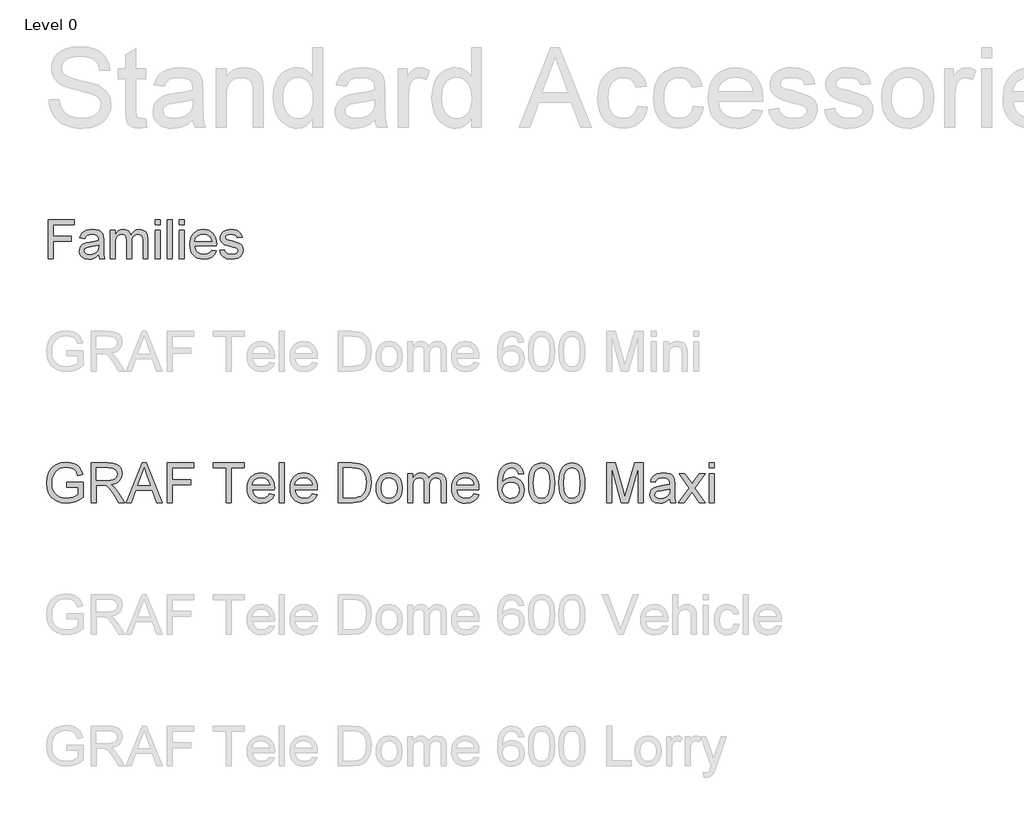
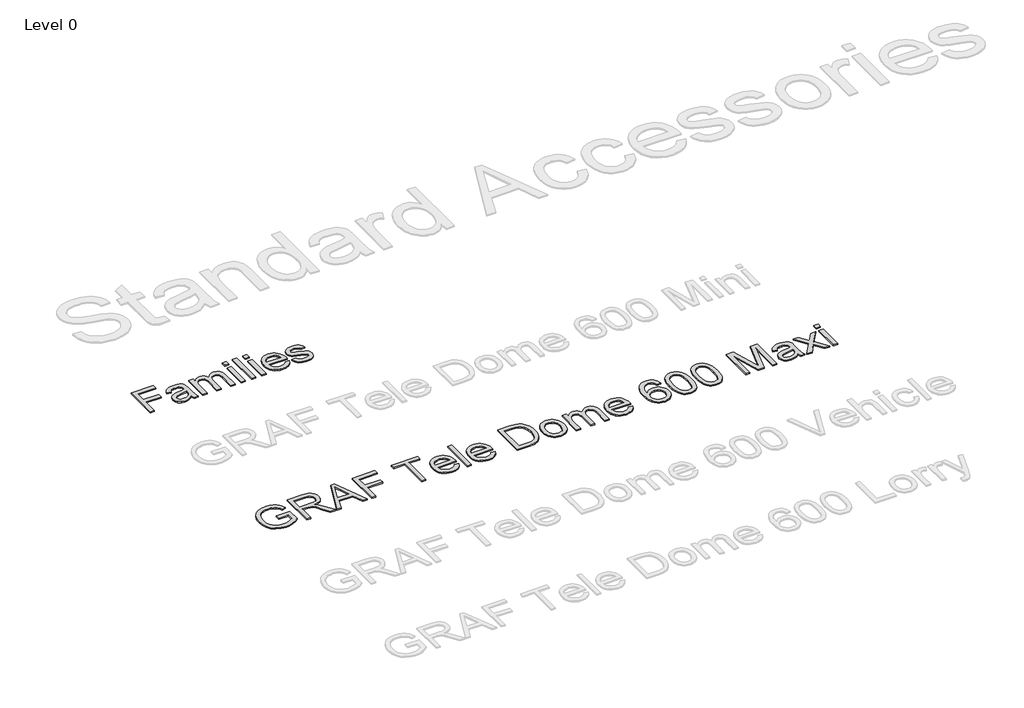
# One storey, part 8 of 19: 2 proxies.
"""IFC4 building model written with IfcOpenShell, lengths in millimetres."""

from ifc_helpers import new_model, si_unit, origin, origin_with_axes, place, context, project, spatial, polyline, outline, extrude, element, save

model = new_model("IFC4")

# Units and contexts
model_context = context("Model", 3, world=origin())
ifc_project = project(units=[si_unit("LENGTHUNIT", "METRE", prefix="MILLI")], contexts=[model_context])

# Site, building, storey
site = spatial("IfcSite", under=ifc_project)
building = spatial("IfcBuilding", under=site)
storey = spatial("IfcBuildingStorey", under=building, Name="Level 0", Elevation=0.0)

# Proxies
placement = place(None, origin())
element("IfcBuildingElementProxy", 1, Name="300mm Arial", ObjectType="300mm Arial", at=placement, inside=storey, context=model_context, shape_type="SweptSolid", body=[
    extrude(outline(polyline([(-15382.9152593, -8345.8973897), (-15382.9152593, -8050.5127743), (-15184.4537209, -8050.5127743), (-15184.4537209, -8087.4358512), (-15345.9921824, -8087.4358512), (-15345.9921824, -8175.1281589), (-15207.530644, -8175.1281589), (-15207.530644, -8212.0512358), (-15345.9921824, -8212.0512358), (-15345.9921824, -8345.8973897), (-15382.9152593, -8345.8973897)])), origin_with_axes(), (0.0, 0.0, 1.0), 10.0),
    extrude(outline(polyline([(-14999.8383363, -8318.205082), (-15017.4795622, -8333.3312839), (-15035.6436247, -8343.2291204), (-15054.7451872, -8348.6918608), (-15075.1989132, -8350.5127743), (-15106.0552834, -8346.1317647), (-15128.8167017, -8332.9887358), (-15142.8521584, -8313.0308031), (-15147.530644, -8288.205082), (-15145.763817, -8272.8985916), (-15140.4633363, -8258.9983512), (-15132.2872545, -8247.0993127), (-15121.8936247, -8237.7964281), (-15096.0402593, -8225.6810435), (-15064.093144, -8220.1281589), (-15026.3407401, -8214.2868127), (-15000.0546824, -8207.4358512), (-14999.8383363, -8199.2146974), (-15002.3804036, -8182.736332), (-15010.0066055, -8171.955082), (-15027.061894, -8163.9502743), (-15050.8239132, -8161.282005), (-15072.8191055, -8163.0578464), (-15088.1796824, -8168.3853704), (-15098.654442, -8178.2381349), (-15105.9921824, -8193.5896974), (-15142.9152593, -8188.9743127), (-15136.5060045, -8168.782005), (-15126.9417017, -8152.9166204), (-15113.3299228, -8140.783207), (-15094.7782401, -8131.7868127), (-15072.0889372, -8126.2158993), (-15046.0642978, -8124.3589281), (-15021.1033603, -8125.9995531), (-15001.3167017, -8130.9214281), (-14986.3978315, -8138.3222695), (-14976.0402593, -8147.3997935), (-14969.171269, -8158.6227502), (-14964.718144, -8172.4598897), (-14962.9152593, -8204.767582), (-14962.9152593, -8250.705082), (-14961.0402593, -8314.8517166), (-14953.6844901, -8345.8973897), (-14990.607567, -8345.8973897), (-14999.8383363, -8318.205082)]), holes=[polyline([(-14999.8383363, -8244.3589281), (-15059.405644, -8255.6810435), (-15091.1724709, -8261.6666204), (-15105.5594901, -8271.4021974), (-15110.607567, -8285.6089281), (-15107.858168, -8296.5884954), (-15099.6099709, -8305.5848897), (-15086.0432642, -8311.5884954), (-15067.3383363, -8313.5896974), (-15047.5066055, -8311.3811637), (-15029.982567, -8304.7555627), (-15015.7758363, -8294.9929425), (-15005.8960286, -8283.3733512), (-15001.515019, -8271.4021974), (-15000.0546824, -8254.8156589), (-14999.8383363, -8244.3589281)])]), origin_with_axes(), (0.0, 0.0, 1.0), 10.0),
    extrude(outline(polyline([(-14912.1460286, -8345.8973897), (-14912.1460286, -8128.9743127), (-14875.2229517, -8128.9743127), (-14875.2229517, -8164.6714281), (-14864.1171824, -8148.2741925), (-14849.8383363, -8135.4286397), (-14832.873192, -8127.126356), (-14813.7085286, -8124.3589281), (-14793.1736728, -8127.1804425), (-14776.7133363, -8135.6449858), (-14764.4176632, -8149.1936637), (-14756.3767978, -8167.267582), (-14742.9182642, -8148.4950459), (-14727.5667017, -8135.0860916), (-14710.3221103, -8127.040719), (-14691.1844901, -8124.3589281), (-14663.4290815, -8128.8210675), (-14642.9032401, -8142.2074858), (-14630.2199468, -8164.8787599), (-14625.9921824, -8197.1954666), (-14625.9921824, -8345.8973897), (-14662.9152593, -8345.8973897), (-14662.9152593, -8213.0608512), (-14666.3407401, -8182.2315243), (-14671.154442, -8173.7309233), (-14678.7445863, -8167.0512358), (-14688.5072065, -8162.7243127), (-14699.8383363, -8161.282005), (-14719.8413411, -8164.9779185), (-14736.1484324, -8176.0656589), (-14746.9927834, -8195.3024377), (-14750.607567, -8223.4454666), (-14750.607567, -8345.8973897), (-14787.530644, -8345.8973897), (-14787.530644, -8208.9502743), (-14789.6670622, -8188.0728704), (-14796.076317, -8173.1810435), (-14807.3533603, -8164.2567647), (-14824.093144, -8161.282005), (-14838.3179036, -8163.2651781), (-14851.4248747, -8169.2146974), (-14862.2421824, -8178.986332), (-14869.5979517, -8192.4358512), (-14873.8167017, -8211.095707), (-14875.2229517, -8236.4983512), (-14875.2229517, -8345.8973897), (-14912.1460286, -8345.8973897)])), origin_with_axes(), (0.0, 0.0, 1.0), 10.0),
    extrude(outline(polyline([(-14570.607567, -8087.4358512), (-14570.607567, -8050.5127743), (-14533.6844901, -8050.5127743), (-14533.6844901, -8087.4358512), (-14570.607567, -8087.4358512)])), origin_with_axes(), (0.0, 0.0, 1.0), 10.0),
    extrude(outline(polyline([(-14570.607567, -8345.8973897), (-14570.607567, -8128.9743127), (-14533.6844901, -8128.9743127), (-14533.6844901, -8345.8973897), (-14570.607567, -8345.8973897)])), origin_with_axes(), (0.0, 0.0, 1.0), 10.0),
    extrude(outline(polyline([(-14478.2998747, -8345.8973897), (-14478.2998747, -8050.5127743), (-14441.3767978, -8050.5127743), (-14441.3767978, -8345.8973897), (-14478.2998747, -8345.8973897)])), origin_with_axes(), (0.0, 0.0, 1.0), 10.0),
    extrude(outline(polyline([(-14385.9921824, -8087.4358512), (-14385.9921824, -8050.5127743), (-14349.0691055, -8050.5127743), (-14349.0691055, -8087.4358512), (-14385.9921824, -8087.4358512)])), origin_with_axes(), (0.0, 0.0, 1.0), 10.0),
    extrude(outline(polyline([(-14385.9921824, -8345.8973897), (-14385.9921824, -8128.9743127), (-14349.0691055, -8128.9743127), (-14349.0691055, -8345.8973897), (-14385.9921824, -8345.8973897)])), origin_with_axes(), (0.0, 0.0, 1.0), 10.0),
    extrude(outline(polyline([(-14141.8094901, -8281.282005), (-14105.607567, -8285.8973897), (-14118.6514372, -8313.1750339), (-14139.4657401, -8333.5656589), (-14167.5817257, -8346.2759954), (-14202.530644, -8350.5127743), (-14225.4408002, -8348.6851), (-14245.8539613, -8343.2020772), (-14263.7701271, -8334.0637058), (-14279.1892978, -8321.2699858), (-14291.5886367, -8305.176987), (-14300.4453074, -8286.1407791), (-14305.7593098, -8264.161362), (-14307.530644, -8239.2387358), (-14305.741281, -8213.4710074), (-14300.373192, -8190.7591685), (-14291.4263771, -8171.103219), (-14278.9008363, -8154.5031589), (-14263.5222305, -8141.3150579), (-14246.0162209, -8131.8949858), (-14226.3828074, -8126.2429425), (-14204.6219901, -8124.3589281), (-14183.5620442, -8126.2384353), (-14164.5168218, -8131.876957), (-14147.486323, -8141.274493), (-14132.4705478, -8154.4310435), (-14120.213186, -8170.9950459), (-14111.4579276, -8190.6149377), (-14106.2047726, -8213.290719), (-14104.4537209, -8239.0223897), (-14104.670067, -8248.9743127), (-14270.607567, -8248.9743127), (-14264.2163411, -8276.6125339), (-14249.3695863, -8296.9310435), (-14227.9423026, -8309.4250339), (-14201.8094901, -8313.5896974), (-14182.1580478, -8311.6606108), (-14165.607567, -8305.8733512), (-14152.1580478, -8295.8673416), (-14141.8094901, -8281.282005)]), holes=[polyline([(-14270.607567, -8212.0512358), (-14141.3767978, -8212.0512358), (-14146.3707882, -8192.5440243), (-14156.1604517, -8178.5896974), (-14177.686894, -8165.6089281), (-14204.7662209, -8161.282005), (-14229.655043, -8164.7345291), (-14250.2349709, -8175.0921012), (-14264.5408603, -8191.2369329), (-14270.607567, -8212.0512358)])]), origin_with_axes(), (0.0, 0.0, 1.0), 10.0),
    extrude(outline(polyline([(-14081.3767978, -8281.282005), (-14044.4537209, -8276.6666204), (-14038.6304036, -8292.4598897), (-14027.3623747, -8304.0704666), (-14010.577519, -8311.2098897), (-13988.2037209, -8313.5896974), (-13966.1003555, -8311.408207), (-13950.5594901, -8304.8637358), (-13941.3647786, -8295.3805627), (-13938.2998747, -8284.3829666), (-13941.3828074, -8274.9719089), (-13950.6316055, -8267.7964281), (-13988.6364132, -8257.267582), (-14044.2373747, -8239.2026781), (-14058.3088892, -8230.1251541), (-14068.5042017, -8218.1089281), (-14074.6971103, -8203.9202262), (-14076.7614132, -8188.3252743), (-14075.1027593, -8174.0193849), (-14070.1267978, -8160.813255), (-14062.2842497, -8149.2297214), (-14052.0258363, -8139.7916204), (-14028.5522786, -8128.8661397), (-13996.7854517, -8124.3589281), (-13972.7529997, -8126.1708272), (-13951.857567, -8131.6065243), (-13935.0546824, -8140.1341685), (-13923.2998747, -8151.2219089), (-13915.5114132, -8165.6900579), (-13910.607567, -8184.3589281), (-13947.530644, -8188.9743127), (-13952.1911007, -8177.3547214), (-13961.4128555, -8168.6017166), (-13975.2860526, -8163.1119329), (-13993.9008363, -8161.282005), (-14015.1027593, -8163.0308031), (-14029.2373747, -8168.2771974), (-14037.1880959, -8175.8493127), (-14039.8383363, -8184.5752743), (-14035.4392978, -8195.3204666), (-14021.6652593, -8203.469505), (-13989.8623747, -8211.330082), (-13935.6676632, -8228.7098897), (-13921.3527593, -8237.0211877), (-13910.499394, -8248.3973897), (-13903.6574468, -8262.8745531), (-13901.3767978, -8280.4887358), (-13904.0540815, -8298.6978704), (-13912.0859324, -8315.8252743), (-13925.1658603, -8330.5277983), (-13942.9873747, -8341.4622935), (-13964.513817, -8348.2501541), (-13988.7085286, -8350.5127743), (-14025.9380959, -8346.1497935), (-14053.107567, -8333.0608512), (-14071.2445863, -8311.3901781), (-14081.3767978, -8281.282005)])), origin_with_axes(), (0.0, 0.0, 1.0), 10.0),
])
element("IfcBuildingElementProxy", 2, Name="300mm Arial", ObjectType="300mm Arial", at=placement, inside=storey, context=model_context, shape_type="SweptSolid", body=[
    extrude(outline(polyline([(-15240.9940387, -10082.9794047), (-15240.9940387, -10045.3082884), (-15118.5629107, -10045.3082884), (-15118.5629107, -10157.9537553), (-15148.3153671, -10178.6471176), (-15179.0059225, -10193.4911561), (-15210.5610007, -10202.4306885), (-15242.9070251, -10205.4105327), (-15285.1674693, -10200.674052), (-15323.3628175, -10186.46461), (-15355.0926395, -10163.2788472), (-15377.9565055, -10131.6134045), (-15391.7796715, -10093.6295885), (-15396.3873935, -10051.4887059), (-15391.7980656, -10009.0443207), (-15378.0300819, -9969.5613856), (-15355.6536596, -9936.442809), (-15325.2390156, -9913.0914993), (-15288.1932987, -9899.2407422), (-15245.9236575, -9894.6238232), (-15214.8928112, -9897.3001647), (-15186.9889618, -9905.3291892), (-15163.4904994, -9918.1314827), (-15145.6758138, -9935.1276309), (-15132.4964413, -9957.1361712), (-15122.9039183, -9984.9756412), (-15157.6319786, -9994.7613023), (-15165.3850917, -9974.9048716), (-15174.8120678, -9959.9228773), (-15187.2832674, -9948.6289001), (-15204.169051, -9939.8365204), (-15224.3013932, -9934.1803347), (-15246.5122687, -9932.2949395), (-15272.5123287, -9934.3274875), (-15294.7415982, -9940.4251316), (-15313.1173039, -9949.8245166), (-15327.5566722, -9961.7622873), (-15346.9440533, -9990.7881767), (-15355.7732212, -10019.225455), (-15358.7162772, -10049.9436015), (-15355.175413, -10085.9684459), (-15344.5528204, -10115.6105377), (-15327.1703961, -10138.6583447), (-15303.3500369, -10154.9003348), (-15275.4737787, -10164.529646), (-15245.9236575, -10167.7394164), (-15219.831627, -10165.3205923), (-15194.3833899, -10158.0641199), (-15172.2828791, -10148.0669267), (-15156.234027, -10137.42594), (-15156.234027, -10082.9794047), (-15240.9940387, -10082.9794047)])), origin_with_axes(), (0.0, 0.0, 1.0), 10.0),
    extrude(outline(polyline([(-15057.3473467, -10200.7016432), (-15057.3473467, -9899.3327127), (-14927.4850024, -9899.3327127), (-14892.5821982, -9901.3652607), (-14867.1891434, -9907.4629048), (-14848.6294968, -9918.7200939), (-14834.2269167, -9936.2312768), (-14824.9838815, -9957.9455116), (-14821.9028698, -9981.811856), (-14827.0072325, -10011.4999331), (-14842.3203206, -10036.1112385), (-14853.9200997, -10046.1406214), (-14868.3019865, -10054.1558504), (-14905.4120827, -10064.1438466), (-14884.0013506, -10080.257078), (-14853.467145, -10119.0318402), (-14803.2144645, -10200.7016432), (-14846.9924219, -10200.7016432), (-14886.2086426, -10138.2352804), (-14914.5355562, -10096.8853441), (-14934.4379722, -10077.3508102), (-14952.3538253, -10070.1771113), (-14974.2060158, -10068.8527361), (-15019.6762304, -10068.8527361), (-15019.6762304, -10200.7016432), (-15057.3473467, -10200.7016432)]), holes=[polyline([(-15019.6762304, -10031.1816198), (-14935.3576771, -10031.1816198), (-14911.1418448, -10029.8480476), (-14892.3522719, -10025.8473309), (-14878.2072092, -10018.9127553), (-14867.9249074, -10008.7776063), (-14861.6617165, -9996.5179388), (-14859.5739861, -9983.2098076), (-14863.5563087, -9964.834102), (-14875.5032765, -9950.0268517), (-14896.058683, -9940.2595847), (-14925.8663217, -9937.003829), (-15019.6762304, -9937.003829), (-15019.6762304, -10031.1816198)])]), origin_with_axes(), (0.0, 0.0, 1.0), 10.0),
    extrude(outline(polyline([(-14791.0743586, -10200.7016432), (-14670.7769462, -9899.3327127), (-14638.6976362, -9899.3327127), (-14518.4002238, -10200.7016432), (-14558.2050557, -10200.7016432), (-14592.7123868, -10106.5238524), (-14716.835772, -10106.5238524), (-14751.2695268, -10200.7016432), (-14791.0743586, -10200.7016432)]), holes=[polyline([(-14703.003409, -10068.8527361), (-14606.4711735, -10068.8527361), (-14633.6208647, -9994.7613023), (-14654.7372912, -9937.003829), (-14673.499273, -9988.2865792), (-14703.003409, -10068.8527361)])]), origin_with_axes(), (0.0, 0.0, 1.0), 10.0),
    extrude(outline(polyline([(-14478.1539335, -10200.7016432), (-14478.1539335, -9899.3327127), (-14275.6716834, -9899.3327127), (-14275.6716834, -9937.003829), (-14440.4828172, -9937.003829), (-14440.4828172, -10026.4727303), (-14299.2161311, -10026.4727303), (-14299.2161311, -10064.1438466), (-14440.4828172, -10064.1438466), (-14440.4828172, -10200.7016432), (-14478.1539335, -10200.7016432)])), origin_with_axes(), (0.0, 0.0, 1.0), 10.0),
    extrude(outline(polyline([(-14030.8094274, -10200.7016432), (-14030.8094274, -9937.003829), (-14129.6961077, -9937.003829), (-14129.6961077, -9899.3327127), (-13894.2516308, -9899.3327127), (-13894.2516308, -9937.003829), (-13993.1383111, -9937.003829), (-13993.1383111, -10200.7016432), (-14030.8094274, -10200.7016432)])), origin_with_axes(), (0.0, 0.0, 1.0), 10.0),
    extrude(outline(polyline([(-13701.6286181, -10134.7771896), (-13664.6932658, -10139.4860792), (-13678.001397, -10167.3163521), (-13699.2373851, -10188.1200789), (-13727.9229837, -10201.0879193), (-13763.5799461, -10205.4105327), (-13786.9542484, -10203.5458308), (-13807.7809678, -10197.9517253), (-13826.0601045, -10188.6282159), (-13841.7916583, -10175.5753029), (-13854.4422004, -10159.1562696), (-13863.4783019, -10139.7343995), (-13868.8999628, -10117.3096927), (-13870.7071831, -10091.882149), (-13868.8815687, -10065.5923819), (-13863.4047255, -10042.4204147), (-13854.2766535, -10022.3662475), (-13841.4973527, -10005.4298801), (-13825.8071856, -9991.9745962), (-13807.9465147, -9982.363679), (-13787.9153401, -9976.5971288), (-13765.7136617, -9974.6749453), (-13744.2270539, -9976.5925302), (-13724.7959868, -9982.3452849), (-13707.4204603, -9991.9332094), (-13692.1004744, -10005.3563037), (-13679.5947859, -10022.2558829), (-13670.6621512, -10042.2732619), (-13665.3025704, -10065.4084409), (-13663.5160434, -10091.6614198), (-13663.7367726, -10101.8149629), (-13833.0360668, -10101.8149629), (-13826.5153584, -10130.0131178), (-13811.3678173, -10150.7432682), (-13789.5064297, -10163.4903794), (-13762.8441821, -10167.7394164), (-13742.7946134, -10165.7712477), (-13725.9088298, -10159.8667417), (-13712.1868314, -10149.6580163), (-13701.6286181, -10134.7771896)]), holes=[polyline([(-13833.0360668, -10064.1438466), (-13701.1871597, -10064.1438466), (-13706.2823254, -10044.2414306), (-13716.2703215, -10030.0043974), (-13738.2328766, -10016.7606456), (-13765.8608145, -10012.3460616), (-13791.2538692, -10015.8685317), (-13812.2507341, -10026.4359421), (-13826.8464522, -10042.9078584), (-13833.0360668, -10064.1438466)])]), origin_with_axes(), (0.0, 0.0, 1.0), 10.0),
    extrude(outline(polyline([(-13625.8449271, -10200.7016432), (-13625.8449271, -9899.3327127), (-13588.1738108, -9899.3327127), (-13588.1738108, -10200.7016432), (-13625.8449271, -10200.7016432)])), origin_with_axes(), (0.0, 0.0, 1.0), 10.0),
    extrude(outline(polyline([(-13376.71524, -10134.7771896), (-13339.7798877, -10139.4860792), (-13353.0880188, -10167.3163521), (-13374.324007, -10188.1200789), (-13403.0096056, -10201.0879193), (-13438.666568, -10205.4105327), (-13462.0408702, -10203.5458308), (-13482.8675897, -10197.9517253), (-13501.1467263, -10188.6282159), (-13516.8782801, -10175.5753029), (-13529.5288222, -10159.1562696), (-13538.5649238, -10139.7343995), (-13543.9865847, -10117.3096927), (-13545.793805, -10091.882149), (-13543.9681906, -10065.5923819), (-13538.4913474, -10042.4204147), (-13529.3632754, -10022.3662475), (-13516.5839745, -10005.4298801), (-13500.8938074, -9991.9745962), (-13483.0331366, -9982.363679), (-13463.0019619, -9976.5971288), (-13440.8002835, -9974.6749453), (-13419.3136758, -9976.5925302), (-13399.8826086, -9982.3452849), (-13382.5070821, -9991.9332094), (-13367.1870963, -10005.3563037), (-13354.6814077, -10022.2558829), (-13345.748773, -10042.2732619), (-13340.3891922, -10065.4084409), (-13338.6026653, -10091.6614198), (-13338.8233945, -10101.8149629), (-13508.1226887, -10101.8149629), (-13501.6019803, -10130.0131178), (-13486.4544391, -10150.7432682), (-13464.5930516, -10163.4903794), (-13437.930804, -10167.7394164), (-13417.8812352, -10165.7712477), (-13400.9954517, -10159.8667417), (-13387.2734532, -10149.6580163), (-13376.71524, -10134.7771896)]), holes=[polyline([(-13508.1226887, -10064.1438466), (-13376.2737816, -10064.1438466), (-13381.3689472, -10044.2414306), (-13391.3569434, -10030.0043974), (-13413.3194985, -10016.7606456), (-13440.9474363, -10012.3460616), (-13466.3404911, -10015.8685317), (-13487.3373559, -10026.4359421), (-13501.9330741, -10042.9078584), (-13508.1226887, -10064.1438466)])]), origin_with_axes(), (0.0, 0.0, 1.0), 10.0),
    extrude(outline(polyline([(-13178.500421, -10200.7016432), (-13178.500421, -9899.3327127), (-13074.5369691, -9899.3327127), (-13020.7526214, -9903.6737203), (-12996.7299272, -9912.0430357), (-12976.4596292, -9925.2316052), (-12955.6191142, -9948.1874417), (-12940.7750757, -9976.7350845), (-12931.8907255, -10010.3227107), (-12928.9292754, -10048.3984972), (-12930.9342323, -10080.7445216), (-12936.9491029, -10109.209391), (-12946.1093646, -10133.4436174), (-12957.5504947, -10153.097713), (-12970.7206701, -10168.6131361), (-12985.0680679, -10180.4313452), (-13001.5399842, -10189.1961338), (-13021.0837152, -10195.5512952), (-13069.533774, -10200.7016432), (-13178.500421, -10200.7016432)]), holes=[polyline([(-13140.8293047, -10163.0305269), (-13074.1690871, -10163.0305269), (-13046.5963316, -10161.6693635), (-13025.6822402, -10157.5858733), (-13009.9001026, -10151.0191797), (-12997.7232085, -10142.2084059), (-12984.6358066, -10125.9020365), (-12974.8041602, -10104.794807), (-12968.6513339, -10078.794747), (-12966.6003918, -10047.809886), (-12970.6195026, -10006.7542553), (-12982.6768349, -9976.4407789), (-13000.4915206, -9955.618658), (-13021.782691, -9943.0370938), (-13043.4509405, -9938.5121452), (-13075.1991567, -9937.003829), (-13140.8293047, -9937.003829), (-13140.8293047, -10163.0305269)])]), origin_with_axes(), (0.0, 0.0, 1.0), 10.0),
    extrude(outline(polyline([(-12891.2581591, -10090.042739), (-12889.2210126, -10061.3801331), (-12883.1095729, -10036.6814556), (-12872.9238402, -10015.9467067), (-12858.6638144, -9999.1758862), (-12844.3072195, -9988.4567246), (-12828.4607026, -9980.8001806), (-12811.1242635, -9976.2062541), (-12792.2979024, -9974.6749453), (-12771.514869, -9976.5396472), (-12752.7229968, -9982.1337528), (-12735.9222859, -9991.4572621), (-12721.1127364, -10004.5101751), (-12709.0255136, -10020.8510335), (-12700.391783, -10040.0383788), (-12695.2115447, -10062.0722111), (-12693.4847985, -10086.9525303), (-12696.5382191, -10125.0099227), (-12705.6984808, -10153.9806298), (-12720.6988691, -10175.6764705), (-12741.2726697, -10191.9092635), (-12765.7092312, -10202.0352154), (-12792.2979024, -10205.4105327), (-12813.3844386, -10203.5527286), (-12832.3510547, -10197.9793164), (-12849.1977508, -10188.690296), (-12863.9245269, -10175.6856675), (-12875.882991, -10159.18616), (-12884.4247511, -10139.4125028), (-12889.5498071, -10116.3646958), (-12891.2581591, -10090.042739)]), holes=[polyline([(-12853.5870428, -10089.9691626), (-12849.2276412, -10124.0626265), (-12836.1494363, -10148.3520353), (-12816.4677495, -10162.8925711), (-12792.2979024, -10167.7394164), (-12768.23842, -10162.86498), (-12748.5935214, -10148.2416707), (-12735.5153165, -10123.6303652), (-12731.1559148, -10088.7919402), (-12735.5429076, -10055.6917577), (-12748.703886, -10031.7334428), (-12768.3763757, -10017.1929069), (-12792.2979024, -10012.3460616), (-12816.4677495, -10017.1745128), (-12836.1494363, -10031.6598664), (-12849.2276412, -10055.8940928), (-12853.5870428, -10089.9691626)])]), origin_with_axes(), (0.0, 0.0, 1.0), 10.0),
    extrude(outline(polyline([(-12651.1047927, -10200.7016432), (-12651.1047927, -9979.3838349), (-12613.4336764, -9979.3838349), (-12613.4336764, -10015.8041524), (-12602.1029109, -9999.0747187), (-12587.5347839, -9985.9689226), (-12570.2259361, -9977.4984396), (-12550.673008, -9974.6749453), (-12529.7221284, -9977.5536219), (-12512.9283153, -9986.1896518), (-12500.3835393, -10000.0128178), (-12492.1797708, -10018.4529028), (-12478.4485753, -9999.3000464), (-12462.7859994, -9985.6194347), (-12445.1920429, -9977.4110677), (-12425.666706, -9974.6749453), (-12397.3489895, -9979.227485), (-12376.4073069, -9992.8851041), (-12363.4670577, -10016.0156845), (-12359.1536413, -10048.9871084), (-12359.1536413, -10200.7016432), (-12396.8247576, -10200.7016432), (-12396.8247576, -10065.1739161), (-12400.3196366, -10033.7200056), (-12405.2308612, -10025.0471875), (-12412.9747772, -10018.2321736), (-12422.9351822, -10013.8175896), (-12434.4958739, -10012.3460616), (-12454.9041276, -10016.1168521), (-12471.5415908, -10027.4292234), (-12482.6056419, -10047.0557279), (-12486.2936589, -10075.7689176), (-12486.2936589, -10200.7016432), (-12523.9647752, -10200.7016432), (-12523.9647752, -10060.9800614), (-12526.144476, -10039.6796939), (-12532.6835784, -10024.4861675), (-12544.1890878, -10015.3810881), (-12561.2680095, -10012.3460616), (-12575.7809542, -10014.3694126), (-12589.1534647, -10020.4394655), (-12600.1899246, -10030.4090676), (-12607.6947173, -10044.131066), (-12611.9989366, -10063.1689593), (-12613.4336764, -10089.0862458), (-12613.4336764, -10200.7016432), (-12651.1047927, -10200.7016432)])), origin_with_axes(), (0.0, 0.0, 1.0), 10.0),
    extrude(outline(polyline([(-12147.6950705, -10134.7771896), (-12110.7597182, -10139.4860792), (-12124.0678494, -10167.3163521), (-12145.3038375, -10188.1200789), (-12173.9894361, -10201.0879193), (-12209.6463985, -10205.4105327), (-12233.0207007, -10203.5458308), (-12253.8474202, -10197.9517253), (-12272.1265568, -10188.6282159), (-12287.8581107, -10175.5753029), (-12300.5086528, -10159.1562696), (-12309.5447543, -10139.7343995), (-12314.9664152, -10117.3096927), (-12316.7736355, -10091.882149), (-12314.9480211, -10065.5923819), (-12309.4711779, -10042.4204147), (-12300.3431059, -10022.3662475), (-12287.5638051, -10005.4298801), (-12271.873638, -9991.9745962), (-12254.0129671, -9982.363679), (-12233.9817925, -9976.5971288), (-12211.7801141, -9974.6749453), (-12190.2935063, -9976.5925302), (-12170.8624391, -9982.3452849), (-12153.4869127, -9991.9332094), (-12138.1669268, -10005.3563037), (-12125.6612382, -10022.2558829), (-12116.7286035, -10042.2732619), (-12111.3690227, -10065.4084409), (-12109.5824958, -10091.6614198), (-12109.803225, -10101.8149629), (-12279.1025192, -10101.8149629), (-12272.5818108, -10130.0131178), (-12257.4342697, -10150.7432682), (-12235.5728821, -10163.4903794), (-12208.9106345, -10167.7394164), (-12188.8610658, -10165.7712477), (-12171.9752822, -10159.8667417), (-12158.2532838, -10149.6580163), (-12147.6950705, -10134.7771896)]), holes=[polyline([(-12279.1025192, -10064.1438466), (-12147.2536121, -10064.1438466), (-12152.3487777, -10044.2414306), (-12162.3367739, -10030.0043974), (-12184.299329, -10016.7606456), (-12211.9272668, -10012.3460616), (-12237.3203216, -10015.8685317), (-12258.3171864, -10026.4359421), (-12272.9129046, -10042.9078584), (-12279.1025192, -10064.1438466)])]), origin_with_axes(), (0.0, 0.0, 1.0), 10.0),
    extrude(outline(polyline([(-11770.542449, -9979.3838349), (-11808.2135653, -9984.0927244), (-11814.2836183, -9965.4227132), (-11822.4873868, -9952.675602), (-11839.5755054, -9940.9217723), (-11860.2320795, -9937.003829), (-11877.7432624, -9939.2846974), (-11894.2243758, -9946.1273025), (-11908.3786356, -9960.5390797), (-11919.9393273, -9980.3771163), (-11927.7476226, -10008.4373154), (-11930.6446933, -10047.5155804), (-11915.5339404, -10029.8848358), (-11897.4249492, -10017.4596214), (-11877.3293952, -10010.0927844), (-11856.2589539, -10007.6371721), (-11838.1591597, -10009.3156337), (-11821.4573172, -10014.3510185), (-11806.1534262, -10022.7433265), (-11792.2474868, -10034.4925578), (-11780.6913936, -10048.8997364), (-11772.4370413, -10065.2658866), (-11767.48443, -10083.5910085), (-11765.8335595, -10103.875102), (-11768.9421624, -10130.8500493), (-11778.2679709, -10155.856828), (-11793.038433, -10177.065225), (-11812.4809965, -10192.6450275), (-11835.7127445, -10202.2191564), (-11861.8507602, -10205.4105327), (-11884.3076568, -10203.2952112), (-11904.589451, -10196.9492468), (-11922.696143, -10186.3726395), (-11938.6277326, -10171.5653892), (-11951.6162663, -10151.9020965), (-11960.8937904, -10126.7573621), (-11966.4603048, -10096.131186), (-11968.3158096, -10060.0235682), (-11966.2556705, -10019.5427532), (-11960.075253, -9984.9940353), (-11949.7745571, -9956.3774146), (-11935.3535829, -9933.6928911), (-11919.7231966, -9918.660313), (-11901.6004098, -9907.9227573), (-11880.9852225, -9901.4802239), (-11857.8776347, -9899.3327127), (-11824.8234374, -9904.6486076), (-11798.3543279, -9920.596292), (-11779.8130753, -9945.9249674), (-11770.542449, -9979.3838349)]), holes=[polyline([(-11930.6446933, -10103.2864908), (-11928.4649925, -10119.9791364), (-11921.9258901, -10135.9176238), (-11911.772347, -10149.6212281), (-11898.7493244, -10159.6092243), (-11883.0315661, -10165.7068684), (-11864.7938162, -10167.7394164), (-11839.9341904, -10163.5271676), (-11820.3904594, -10150.890421), (-11807.7261217, -10131.0247933), (-11803.5046758, -10105.1259008), (-11807.6709394, -10080.266275), (-11820.1697302, -10061.3111552), (-11840.044555, -10049.3090051), (-11866.3389206, -10045.3082884), (-11891.1617582, -10049.3090051), (-11911.9194998, -10061.3111552), (-11925.9633949, -10079.8064225), (-11930.6446933, -10103.2864908)])]), origin_with_axes(), (0.0, 0.0, 1.0), 10.0),
    extrude(outline(polyline([(-11732.8713327, -10052.4451991), (-11730.1030207, -10004.2066725), (-11721.7980847, -9965.7354129), (-11708.0392981, -9936.442809), (-11688.9094343, -9915.7402497), (-11664.2705377, -9903.434597), (-11633.9846524, -9899.3327127), (-11610.7712985, -9901.7607339), (-11589.9859658, -9909.0447974), (-11572.6035415, -9920.8997947), (-11559.598913, -9937.0406172), (-11549.7764637, -9957.3293093), (-11541.9405772, -9981.627915), (-11536.8086234, -10012.4840174), (-11535.0979721, -10052.4451991), (-11537.838693, -10100.4078142), (-11546.0608556, -10138.7871034), (-11559.7368687, -10168.1072984), (-11578.8391413, -10188.8926311), (-11603.5332203, -10201.2810573), (-11633.9846524, -10205.4105327), (-11654.733197, -10203.617108), (-11673.1272967, -10198.2368338), (-11689.1669517, -10189.2697102), (-11702.8521619, -10176.7157371), (-11715.9855492, -10154.0220165), (-11725.36654, -10125.7456867), (-11730.9951346, -10091.8867475), (-11732.8713327, -10052.4451991)]), holes=[polyline([(-11695.2002164, -10052.3716227), (-11690.7856325, -10111.6282151), (-11685.2674026, -10131.8962138), (-11677.5418807, -10145.9240141), (-11657.8234057, -10162.2855658), (-11633.9846524, -10167.7394164), (-11610.1458991, -10162.2671717), (-11590.4274242, -10145.8504377), (-11582.7019023, -10131.7996447), (-11577.1836724, -10111.5362446), (-11572.7690884, -10052.3716227), (-11577.0365196, -9994.4486026), (-11582.3708085, -9974.2472825), (-11589.838813, -9959.8860891), (-11609.5204997, -9942.7243941), (-11634.4261108, -9937.003829), (-11658.0073467, -9942.0438124), (-11676.9532695, -9957.1637624), (-11684.9363088, -9972.7987472), (-11690.6384797, -9993.8783855), (-11695.2002164, -10052.3716227)])]), origin_with_axes(), (0.0, 0.0, 1.0), 10.0),
    extrude(outline(polyline([(-11502.1357454, -10052.4451991), (-11499.3674333, -10004.2066725), (-11491.0624973, -9965.7354129), (-11477.3037107, -9936.442809), (-11458.1738469, -9915.7402497), (-11433.5349503, -9903.434597), (-11403.2490651, -9899.3327127), (-11380.0357112, -9901.7607339), (-11359.2503784, -9909.0447974), (-11341.8679542, -9920.8997947), (-11328.8633256, -9937.0406172), (-11319.0408764, -9957.3293093), (-11311.2049899, -9981.627915), (-11306.073036, -10012.4840174), (-11304.3623847, -10052.4451991), (-11307.1031056, -10100.4078142), (-11315.3252682, -10138.7871034), (-11329.0012814, -10168.1072984), (-11348.103554, -10188.8926311), (-11372.7976329, -10201.2810573), (-11403.2490651, -10205.4105327), (-11423.9976096, -10203.617108), (-11442.3917093, -10198.2368338), (-11458.4313643, -10189.2697102), (-11472.1165745, -10176.7157371), (-11485.2499618, -10154.0220165), (-11494.6309527, -10125.7456867), (-11500.2595472, -10091.8867475), (-11502.1357454, -10052.4451991)]), holes=[polyline([(-11464.464629, -10052.3716227), (-11460.0500451, -10111.6282151), (-11454.5318152, -10131.8962138), (-11446.8062933, -10145.9240141), (-11427.0878183, -10162.2855658), (-11403.2490651, -10167.7394164), (-11379.4103118, -10162.2671717), (-11359.6918368, -10145.8504377), (-11351.9663149, -10131.7996447), (-11346.448085, -10111.5362446), (-11342.0335011, -10052.3716227), (-11346.3009322, -9994.4486026), (-11351.6352211, -9974.2472825), (-11359.1032256, -9959.8860891), (-11378.7849124, -9942.7243941), (-11403.6905234, -9937.003829), (-11427.2717593, -9942.0438124), (-11446.2176821, -9957.1637624), (-11454.2007214, -9972.7987472), (-11459.9028923, -9993.8783855), (-11464.464629, -10052.3716227)])]), origin_with_axes(), (0.0, 0.0, 1.0), 10.0),
    extrude(outline(polyline([(-11139.5512509, -10200.7016432), (-11139.5512509, -9899.3327127), (-11074.7304434, -9899.3327127), (-11013.073421, -10111.7477767), (-11000.6390095, -10156.1143454), (-10987.1745285, -10108.0689568), (-10926.5475757, -9899.3327127), (-10861.7267682, -9899.3327127), (-10861.7267682, -10200.7016432), (-10899.3978845, -10200.7016432), (-10899.3978845, -9937.003829), (-10975.1079991, -10200.7016432), (-11026.17002, -10200.7016432), (-11101.8801346, -9937.003829), (-11101.8801346, -10200.7016432), (-11139.5512509, -10200.7016432)])), origin_with_axes(), (0.0, 0.0, 1.0), 10.0),
    extrude(outline(polyline([(-10659.244518, -10172.4483059), (-10677.2431446, -10187.8809556), (-10695.7752001, -10197.9793164), (-10715.2637488, -10203.5527286), (-10736.131855, -10205.4105327), (-10767.6133567, -10200.9407665), (-10790.8359077, -10187.5314677), (-10805.1557143, -10167.1691993), (-10809.9289832, -10141.8405239), (-10808.1263615, -10126.2239332), (-10802.7184961, -10112.0420823), (-10794.3767719, -10099.9019765), (-10783.7725734, -10090.410621), (-10757.3954343, -10078.049786), (-10724.8010895, -10072.3844033), (-10686.2838447, -10066.4247149), (-10659.4652472, -10059.434957), (-10659.244518, -10051.0472475), (-10661.8380861, -10034.2350404), (-10669.6187903, -10023.2353687), (-10687.0196086, -10015.0683884), (-10711.2630321, -10012.3460616), (-10733.7038338, -10014.1578805), (-10749.3756068, -10019.5933369), (-10760.0625788, -10029.6457125), (-10767.5489774, -10045.3082884), (-10805.2200937, -10040.5993989), (-10798.6809912, -10019.9980071), (-10788.9229213, -10003.8111994), (-10775.035376, -9991.4319702), (-10756.1078473, -9982.2533144), (-10732.9588728, -9976.5695376), (-10706.4069898, -9974.6749453), (-10680.9403587, -9976.3488084), (-10660.7528342, -9981.3703976), (-10645.5317166, -9988.9211756), (-10634.9643063, -9998.1826048), (-10627.9561543, -10009.6329319), (-10623.4128117, -10023.7504035), (-10621.5734017, -10056.7126303), (-10621.5734017, -10103.5807964), (-10619.6604153, -10169.0270034), (-10612.1556226, -10200.7016432), (-10649.8267389, -10200.7016432), (-10659.244518, -10172.4483059)]), holes=[polyline([(-10659.244518, -10097.1060733), (-10720.0186236, -10108.657568), (-10752.4290274, -10114.7644091), (-10767.107519, -10124.697223), (-10772.2578669, -10139.1917736), (-10769.4527667, -10150.3937803), (-10761.0374661, -10159.5724361), (-10747.195906, -10165.6976713), (-10728.1120275, -10167.7394164), (-10707.8785178, -10165.4861392), (-10689.9994528, -10158.7263075), (-10675.5049022, -10148.7659025), (-10665.4249355, -10136.9109052), (-10660.9551693, -10124.697223), (-10659.4652472, -10107.7746512), (-10659.244518, -10097.1060733)])]), origin_with_axes(), (0.0, 0.0, 1.0), 10.0),
    extrude(outline(polyline([(-10593.3200645, -10200.7016432), (-10512.8274839, -10089.4541278), (-10588.6111749, -9979.3838349), (-10543.2881131, -9979.3838349), (-10506.7206428, -10032.3588422), (-10489.6509182, -10057.3748179), (-10474.862062, -10036.9205789), (-10433.2178202, -9979.3838349), (-10387.8947584, -9979.3838349), (-10467.5044221, -10089.4541278), (-10390.8378143, -10200.7016432), (-10436.1608761, -10200.7016432), (-10482.2932783, -10133.8206964), (-10490.7545642, -10121.6070142), (-10547.9970027, -10200.7016432), (-10593.3200645, -10200.7016432)])), origin_with_axes(), (0.0, 0.0, 1.0), 10.0),
    extrude(outline(polyline([(-10357.8755876, -9937.003829), (-10357.8755876, -9899.3327127), (-10320.2044713, -9899.3327127), (-10320.2044713, -9937.003829), (-10357.8755876, -9937.003829)])), origin_with_axes(), (0.0, 0.0, 1.0), 10.0),
    extrude(outline(polyline([(-10357.8755876, -10200.7016432), (-10357.8755876, -9979.3838349), (-10320.2044713, -9979.3838349), (-10320.2044713, -10200.7016432), (-10357.8755876, -10200.7016432)])), origin_with_axes(), (0.0, 0.0, 1.0), 10.0),
])

save(model, "model.ifc")
